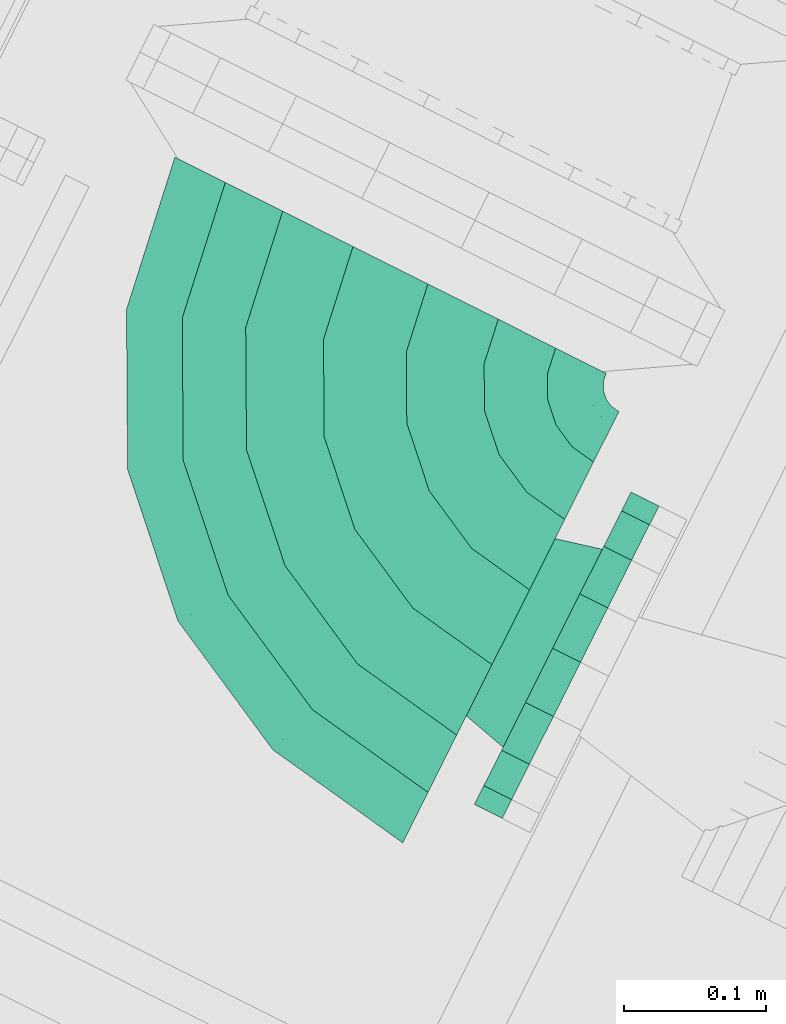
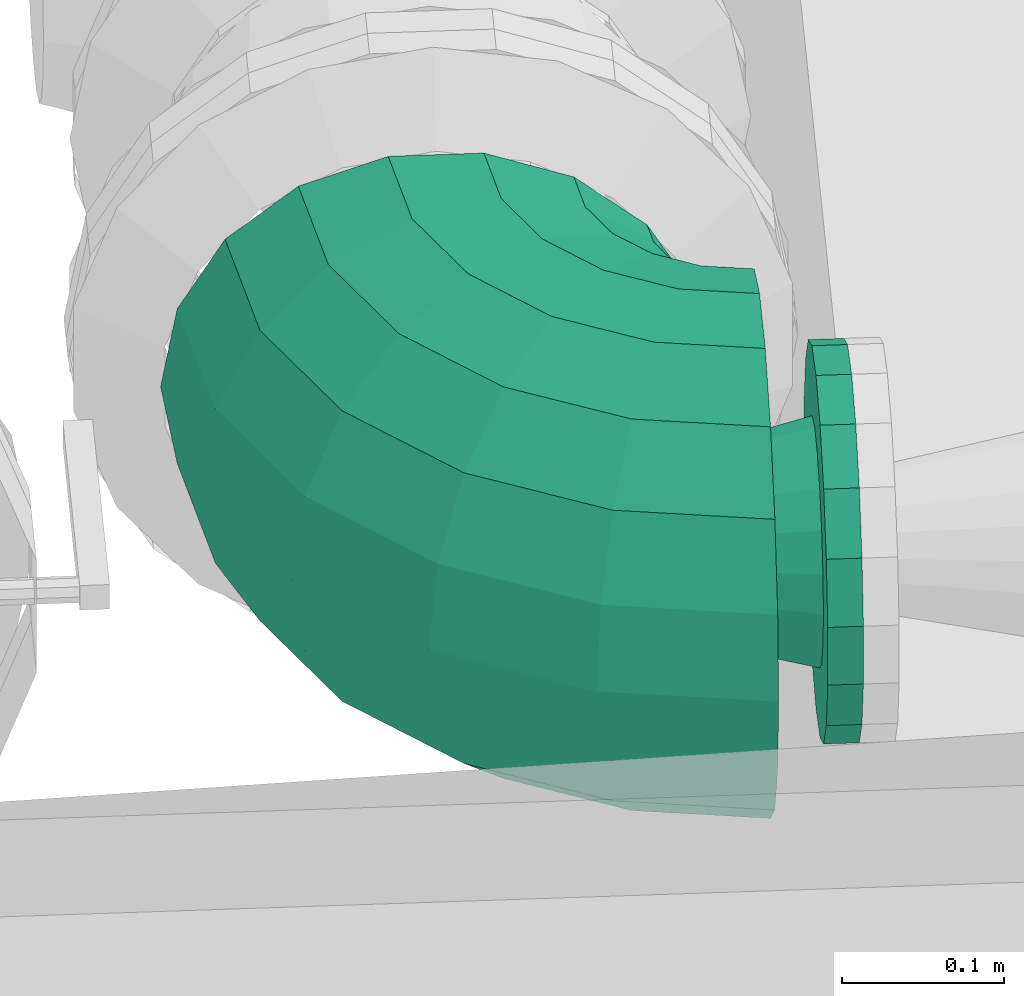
# One storey, part 65 of 206: 1 flow fitting, 1 flow segment.
"""IFC2X3 building model written with IfcOpenShell, lengths in metres."""

import ifcopenshell
import ifcopenshell.guid

model = None  # the IFC model being written
_history = None  # IfcOwnerHistory: only IFC2X3 demands one
_inside = {}  # id of a spatial element -> (the spatial element, [elements in it])
_under = {}  # id of a project, library or spatial element -> (it, [spatial elements below it])
_declared = {}  # id of a project -> (the project, [libraries it declares])
_typed = {}  # id of a type object -> (the type object, [elements of that type])
_made_of = {}  # id of a material, layer set ... -> (it, [elements and type objects made of it])


def new_model(schema):
    """Start an empty IFC model of exactly this schema.

    Asked for "IFC4X3", IfcOpenShell would pick the latest addendum, in which some entities
    have other attributes; the version numbers below select the first issue.
    IFC2X3 requires an IfcOwnerHistory on every rooted entity: one is made here for all.
    """
    global model, _history
    if schema == "IFC4X3":
        model = ifcopenshell.file(schema_version=(4, 3, 0, 0))
    else:
        model = ifcopenshell.file(schema=schema)
    _inside.clear()
    _under.clear()
    _declared.clear()
    _typed.clear()
    _made_of.clear()
    _history = None
    if model.schema == "IFC2X3":
        org = make("IfcOrganization", Name="unknown")
        user = make(
            "IfcPersonAndOrganization",
            ThePerson=make("IfcPerson", FamilyName="unknown"),
            TheOrganization=org,
        )
        app = make(
            "IfcApplication",
            ApplicationDeveloper=org,
            Version="unknown",
            ApplicationFullName="unknown",
            ApplicationIdentifier="unknown",
        )
        _history = make(
            "IfcOwnerHistory",
            OwningUser=user,
            OwningApplication=app,
            ChangeAction="ADDED",
            CreationDate=0,
        )
    return model


def make(cls, **values):
    """One entity of the class cls with the attributes given. An attribute that is None is left unset."""
    return model.create_entity(
        cls, **{name: value for name, value in values.items() if value is not None}
    )


def rooted(cls, **values):
    """An entity with a GlobalId (a new one), such as an element, a storey or a relation."""
    return make(cls, GlobalId=ifcopenshell.guid.new(), OwnerHistory=_history, **values)


def si_unit(unit_type, name, prefix=None):
    """IfcSIUnit, for example si_unit("LENGTHUNIT", "METRE", prefix="MILLI")."""
    return make("IfcSIUnit", UnitType=unit_type, Prefix=prefix, Name=name)


def derived_unit(unit_type, elements):
    """IfcDerivedUnit: a product of units, each with its exponent."""
    return make(
        "IfcDerivedUnit",
        Elements=[
            make("IfcDerivedUnitElement", Unit=unit, Exponent=power)
            for unit, power in elements
        ],
        UnitType=unit_type,
    )


def assignment(units):
    """IfcUnitAssignment: the units of a project."""
    return None if units is None else make("IfcUnitAssignment", Units=units)


def point(xyz):
    """IfcCartesianPoint."""
    return None if xyz is None else make("IfcCartesianPoint", Coordinates=xyz)


def direction(xyz):
    """IfcDirection."""
    return None if xyz is None else make("IfcDirection", DirectionRatios=xyz)


def frame(location, z_axis=None, x_axis=None):
    """IfcAxis2Placement3D, a coordinate frame: its origin and axes. An axis left out is left unset."""
    return make(
        "IfcAxis2Placement3D",
        Location=point(location),
        Axis=direction(z_axis),
        RefDirection=direction(x_axis),
    )


def origin():
    """The frame at (0, 0, 0) with its axes left unset."""
    return frame((0.0, 0.0, 0.0))


def place(relative_to, where):
    """IfcLocalPlacement: puts the frame where relative to a parent placement (None: the world)."""
    return make(
        "IfcLocalPlacement", PlacementRelTo=relative_to, RelativePlacement=where
    )


def context(
    kind, dimensions, precision=None, world=None, true_north=None, identifier=None
):
    """IfcGeometricRepresentationContext, for example the 3D "Model" context."""
    return make(
        "IfcGeometricRepresentationContext",
        ContextIdentifier=identifier,
        ContextType=kind,
        CoordinateSpaceDimension=dimensions,
        Precision=precision,
        WorldCoordinateSystem=world,
        TrueNorth=true_north,
    )


def subcontext(parent, identifier, kind, view, scale=None):
    """IfcGeometricRepresentationSubContext, for example "Body" below "Model"."""
    return make(
        "IfcGeometricRepresentationSubContext",
        ContextIdentifier=identifier,
        ContextType=kind,
        ParentContext=parent,
        TargetScale=scale,
        TargetView=view,
    )


def project(units=None, contexts=None):
    """IfcProject with its units and contexts."""
    return rooted(
        "IfcProject",
        Name="project",
        RepresentationContexts=contexts,
        UnitsInContext=assignment(units),
    )


def spatial(cls, under=None, at=None, **own):
    """A site, building, storey or space (cls), placed at a placement, below another one or the project."""
    s = rooted(cls, ObjectPlacement=at, **own)
    if under is not None:
        _under.setdefault(under.id(), (under, []))[1].append(s)
    return s


def faces_of(points, faces, orient=None, outer=None):
    """IfcFace entities. A face is a list of loops; a loop is a list of indices into points, from 0.

    orient and outer hold one flag for each loop. By default every Orientation is true, the
    first loop of a face is its IfcFaceOuterBound and the others are IfcFaceBound.
    """
    made = []
    for i, loops in enumerate(faces):
        bounds = []
        for j, loop in enumerate(loops):
            is_outer = j == 0 if outer is None else outer[i][j]
            bounds.append(
                make(
                    "IfcFaceOuterBound" if is_outer else "IfcFaceBound",
                    Bound=make("IfcPolyLoop", Polygon=[points[k] for k in loop]),
                    Orientation=True if orient is None else orient[i][j],
                )
            )
        made.append(make("IfcFace", Bounds=bounds))
    return made


def face_set(faces, orient=None, outer=None):
    """The faces of one IfcConnectedFaceSet. surface_model builds it on its shared points."""
    return ("IfcConnectedFaceSet", faces, orient, outer)


def surface_model(cls, points, shells):
    """IfcFaceBasedSurfaceModel or IfcShellBasedSurfaceModel (cls): surfaces that need not close."""
    shared = [point(p) for p in points]
    made = [make(c, CfsFaces=faces_of(shared, fs, o, b)) for c, fs, o, b in shells]
    if cls == "IfcFaceBasedSurfaceModel":
        return make(cls, FbsmFaces=made)
    return make(cls, SbsmBoundary=made)


def shape(context_of_items, identifier, shape_type, items):
    """IfcShapeRepresentation: the items that make up one representation, for example the "Body"."""
    return make(
        "IfcShapeRepresentation",
        ContextOfItems=context_of_items,
        RepresentationIdentifier=identifier,
        RepresentationType=shape_type,
        Items=items,
    )


def source(mapping_origin, context_of_items, identifier, shape_type, items):
    """IfcRepresentationMap: a shape defined once, which mapped items show again and again."""
    return make(
        "IfcRepresentationMap",
        MappingOrigin=mapping_origin,
        MappedRepresentation=shape(context_of_items, identifier, shape_type, items),
    )


def transform(
    local_origin,
    x_axis=None,
    y_axis=None,
    z_axis=None,
    scale=None,
    scale2=None,
    scale3=None,
    uniform=True,
):
    """IfcCartesianTransformationOperator3D, or its non-uniform kind. x_axis, y_axis, z_axis: its Axis1, 2, 3."""
    if uniform:
        return make(
            "IfcCartesianTransformationOperator3D",
            Axis1=direction(x_axis),
            Axis2=direction(y_axis),
            LocalOrigin=point(local_origin),
            Scale=scale,
            Axis3=direction(z_axis),
        )
    return make(
        "IfcCartesianTransformationOperator3DnonUniform",
        Axis1=direction(x_axis),
        Axis2=direction(y_axis),
        LocalOrigin=point(local_origin),
        Scale=scale,
        Axis3=direction(z_axis),
        Scale2=scale2,
        Scale3=scale3,
    )


def mapped(mapping_source, mapping_target):
    """IfcMappedItem: shows the shape of a source again, moved by a transform."""
    return make(
        "IfcMappedItem", MappingSource=mapping_source, MappingTarget=mapping_target
    )


def material(Name=None, Category=None):
    """IfcMaterial."""
    return make("IfcMaterial", Name=Name, Category=Category)


def made_of(thing, what):
    """Note that an element or type object is made of a material, layer set ...; save() writes the relation."""
    if what is not None:
        _made_of.setdefault(what.id(), (what, []))[1].append(thing)
    return thing


def type_object(cls, material=None, **own):
    """A type object (cls), such as IfcWallType, which elements share."""
    return made_of(rooted(cls, **own), material)


def type_shapes(of_type, sources):
    """Give a type object the sources (RepresentationMaps) that its elements show as mapped items."""
    of_type.RepresentationMaps = sources


def element(
    cls,
    number,
    at=None,
    inside=None,
    cuts=None,
    type_object=None,
    material=None,
    context=None,
    identifier="Body",
    shape_type=None,
    held_by="IfcProductDefinitionShape",
    body=None,
    shapes=None,
    **own,
):
    """One element of the class cls, such as IfcWall. Its Tag is "e" and its number.

    at: its placement. inside: the storey or other place that contains it. cuts: it is an
    opening in that element (IfcRelVoidsElement). A single representation is given by context,
    identifier, shape_type and body (its items); several are given by shapes. held_by: the class
    of the entity that holds the representations. save() writes the other relations.
    """
    e = rooted(cls, Tag="e%d" % number, ObjectPlacement=at, **own)
    if body is not None:
        shapes = [shape(context, identifier, shape_type, body)]
    if shapes is not None:
        e.Representation = make(held_by, Representations=shapes)
    if inside is not None:
        _inside.setdefault(inside.id(), (inside, []))[1].append(e)
    if cuts is not None:
        rooted(
            "IfcRelVoidsElement", RelatingBuildingElement=cuts, RelatedOpeningElement=e
        )
    if type_object is not None:
        _typed.setdefault(type_object.id(), (type_object, []))[1].append(e)
    return made_of(e, material)


def aggregate(whole, parts):
    """IfcRelAggregates: a whole, such as a stair, and the parts it consists of."""
    return rooted("IfcRelAggregates", RelatingObject=whole, RelatedObjects=parts)


def save(model, path):
    """Write the relations noted so far, then the file.

    IfcRelAggregates (storeys below a building ...), IfcRelContainedInSpatialStructure (elements
    in a storey), IfcRelDefinesByType, IfcRelAssociatesMaterial and IfcRelDeclares: one each for
    every whole, place, type object, material and project.
    """
    for whole, parts in _under.values():
        aggregate(whole, parts)
    for where, things in _inside.values():
        rooted(
            "IfcRelContainedInSpatialStructure",
            RelatedElements=things,
            RelatingStructure=where,
        )
    for kind, things in _typed.values():
        rooted("IfcRelDefinesByType", RelatedObjects=things, RelatingType=kind)
    for what, things in _made_of.values():
        rooted("IfcRelAssociatesMaterial", RelatedObjects=things, RelatingMaterial=what)
    for by, libraries in _declared.values():
        rooted("IfcRelDeclares", RelatingContext=by, RelatedDefinitions=libraries)
    model.write(path)


model = new_model("IFC2X3")

# Units and contexts
model_context = context("Model", 3, precision=5.2338327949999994e-05, world=origin(), true_north=direction((0.0, 1.0)))
body_context = subcontext(model_context, "Body", "Model", "MODEL_VIEW")
ifc_project = project(units=[si_unit("LENGTHUNIT", "METRE"), si_unit("AREAUNIT", "SQUARE_METRE"), si_unit("VOLUMEUNIT", "CUBIC_METRE"), si_unit("MASSUNIT", "GRAM", prefix="KILO"), si_unit("PLANEANGLEUNIT", "RADIAN"), derived_unit("THERMALTRANSMITTANCEUNIT", [(si_unit("MASSUNIT", "GRAM", prefix="KILO"), 1), (si_unit("THERMODYNAMICTEMPERATUREUNIT", "KELVIN"), -1), (si_unit("TIMEUNIT", "SECOND"), -3)])], contexts=[model_context])

# Site, building, storey
site_placement = place(None, frame((0.0, 0.0, 0.0), z_axis=(0.0, 0.0, 1.0), x_axis=(0.8939966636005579, -0.4480736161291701, 0.0)))
site = spatial("IfcSite", under=ifc_project, at=site_placement, Name="Default", CompositionType="ELEMENT")
building_placement = place(site_placement, origin())
building = spatial("IfcBuilding", under=site, at=building_placement, CompositionType="ELEMENT")
storey_placement = place(building_placement, origin())
storey = spatial("IfcBuildingStorey", under=building, at=storey_placement, Name="Erdgeschoss", CompositionType="ELEMENT", Elevation=0.0)

# Flow segment
ifc_material = material(Name="IfcSurfaceStyle #1741")
distribution_element_type_1 = type_object("IfcDistributionElementType", Name="Rohrbogen 340972:Rohrbogen 340972", material=ifc_material)
shared_shape_1 = source(origin(), body_context, "Body", "SurfaceModel", [
    surface_model("IfcFaceBasedSurfaceModel", [(25.370005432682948, 5.585961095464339, 2.3539999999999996), (25.374217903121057, 5.585961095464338, 2.3301098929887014), (25.38672969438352, 5.506964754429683, 2.3301098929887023), (25.38272339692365, 5.50566302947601, 2.354), (25.42304032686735, 5.435701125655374, 2.330109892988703), (25.419632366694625, 5.433225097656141, 2.354), (25.479595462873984, 5.379145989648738, 2.330109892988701), (25.47711943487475, 5.375738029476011, 2.3539999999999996), (25.550859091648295, 5.3428353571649, 2.330109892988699), (25.549557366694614, 5.3388290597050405, 2.3539999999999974), (25.62985543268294, 5.3303235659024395, 2.3301098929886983), (25.629855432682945, 5.326111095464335, 2.353999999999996), (25.38634722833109, 5.585961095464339, 2.3091012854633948), (25.39826536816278, 5.510712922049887, 2.3091012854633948), (25.432853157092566, 5.442830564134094, 2.309101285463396), (25.4867249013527, 5.388958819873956, 2.3091012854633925), (25.55460725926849, 5.354371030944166, 2.3091012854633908), (25.629855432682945, 5.342452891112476, 2.3091012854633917), (25.40493043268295, 5.585961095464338, 2.2935081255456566), (25.41593904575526, 5.516455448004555, 2.293508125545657), (25.447887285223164, 5.453753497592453, 2.2935081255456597), (25.497647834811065, 5.403992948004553, 2.2935081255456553), (25.560349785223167, 5.372044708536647, 2.2935081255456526), (25.629855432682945, 5.361036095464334, 2.293508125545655), (25.42772610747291, 5.585961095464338, 2.2852111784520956), (25.4376190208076, 5.5234996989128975, 2.2852111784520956), (25.46632937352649, 5.467152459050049, 2.285211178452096), (25.51104679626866, 5.422435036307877, 2.285211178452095), (25.567394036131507, 5.393724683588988, 2.285211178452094), (25.629855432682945, 5.383831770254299, 2.285211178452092), (25.451984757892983, 5.585961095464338, 2.285211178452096), (25.460690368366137, 5.5309960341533, 2.285211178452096), (25.48595503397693, 5.481411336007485, 2.2852111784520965), (25.5253056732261, 5.442060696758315, 2.285211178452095), (25.574890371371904, 5.416796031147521, 2.285211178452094), (25.629855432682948, 5.408090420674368, 2.285211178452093), (25.474780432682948, 5.585961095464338, 2.2935081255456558), (25.482370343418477, 5.538040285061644, 2.2935081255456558), (25.504397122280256, 5.494810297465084, 2.293508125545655), (25.53870463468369, 5.460502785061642, 2.2935081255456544), (25.58193462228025, 5.438476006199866, 2.293508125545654), (25.629855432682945, 5.430886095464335, 2.2935081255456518), (25.493363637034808, 5.585961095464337, 2.309101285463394), (25.500044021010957, 5.543782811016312, 2.309101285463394), (25.519431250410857, 5.505733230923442, 2.309101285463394), (25.549627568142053, 5.475536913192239, 2.3091012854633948), (25.58767714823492, 5.4561496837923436, 2.309101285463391), (25.629855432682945, 5.449469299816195, 2.3091012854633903), (25.505492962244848, 5.585961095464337, 2.330109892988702), (25.511579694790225, 5.54753097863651, 2.330109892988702), (25.529244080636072, 5.512862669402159, 2.3301098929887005), (25.556757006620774, 5.485349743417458, 2.330109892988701), (25.591425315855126, 5.467685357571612, 2.3301098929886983), (25.629855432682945, 5.461598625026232, 2.3301098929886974), (25.509705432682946, 5.585961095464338, 2.353999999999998), (25.515585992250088, 5.548832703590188, 2.3539999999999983), (25.532652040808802, 5.515338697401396, 2.3539999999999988), (25.559233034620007, 5.48875770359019, 2.353999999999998), (25.5927270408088, 5.471691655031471, 2.353999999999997), (25.629855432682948, 5.465811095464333, 2.3539999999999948), (25.505492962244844, 5.585961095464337, 2.377890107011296), (25.511579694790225, 5.54753097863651, 2.377890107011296), (25.529244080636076, 5.512862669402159, 2.377890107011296), (25.556757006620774, 5.4853497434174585, 2.377890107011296), (25.591425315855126, 5.467685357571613, 2.3778901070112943), (25.629855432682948, 5.461598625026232, 2.3778901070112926), (25.49336363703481, 5.585961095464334, 2.3988987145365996), (25.500044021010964, 5.543782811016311, 2.3988987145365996), (25.51943125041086, 5.505733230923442, 2.398898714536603), (25.549627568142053, 5.475536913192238, 2.398898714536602), (25.58767714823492, 5.456149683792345, 2.3988987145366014), (25.629855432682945, 5.449469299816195, 2.3988987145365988), (25.474780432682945, 5.585961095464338, 2.414491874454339), (25.482370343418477, 5.538040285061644, 2.414491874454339), (25.504397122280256, 5.494810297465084, 2.4144918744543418), (25.538704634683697, 5.460502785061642, 2.414491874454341), (25.581934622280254, 5.438476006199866, 2.4144918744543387), (25.629855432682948, 5.430886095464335, 2.414491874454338), (25.451984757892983, 5.585961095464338, 2.422788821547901), (25.460690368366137, 5.5309960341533, 2.4227888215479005), (25.48595503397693, 5.481411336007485, 2.422788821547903), (25.5253056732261, 5.442060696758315, 2.4227888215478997), (25.574890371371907, 5.416796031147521, 2.422788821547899), (25.629855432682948, 5.408090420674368, 2.4227888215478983), (25.427726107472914, 5.585961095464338, 2.422788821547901), (25.437619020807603, 5.5234996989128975, 2.422788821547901), (25.46632937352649, 5.467152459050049, 2.422788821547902), (25.51104679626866, 5.422435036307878, 2.422788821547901), (25.56739403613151, 5.393724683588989, 2.4227888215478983), (25.629855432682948, 5.383831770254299, 2.4227888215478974), (25.40493043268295, 5.585961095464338, 2.4144918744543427), (25.415939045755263, 5.516455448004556, 2.414491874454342), (25.447887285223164, 5.4537534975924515, 2.414491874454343), (25.497647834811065, 5.403992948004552, 2.4144918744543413), (25.56034978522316, 5.372044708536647, 2.4144918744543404), (25.629855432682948, 5.361036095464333, 2.414491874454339), (25.38634722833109, 5.585961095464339, 2.398898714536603), (25.39826536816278, 5.510712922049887, 2.398898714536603), (25.432853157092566, 5.442830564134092, 2.3988987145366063), (25.486724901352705, 5.388958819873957, 2.3988987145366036), (25.554607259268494, 5.354371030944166, 2.398898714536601), (25.629855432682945, 5.342452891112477, 2.3988987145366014), (25.374217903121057, 5.585961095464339, 2.3778901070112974), (25.386729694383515, 5.506964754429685, 2.3778901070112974), (25.42304032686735, 5.435701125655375, 2.377890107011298), (25.479595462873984, 5.379145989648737, 2.3778901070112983), (25.550859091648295, 5.3428353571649, 2.3778901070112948), (25.629855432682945, 5.33032356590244, 2.3778901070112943), (25.270005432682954, 5.585961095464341, 2.354), (25.280248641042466, 5.585961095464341, 2.2959078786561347), (25.297359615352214, 5.47792665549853, 2.2959078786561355), (25.28761774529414, 5.474761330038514, 2.353999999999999), (25.34701759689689, 5.380467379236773, 2.295907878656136), (25.338730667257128, 5.374446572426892, 2.3540000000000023), (25.42436171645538, 5.303123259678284, 2.2959078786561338), (25.418340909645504, 5.294836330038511, 2.353999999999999), (25.52182099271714, 5.253465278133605, 2.295907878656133), (25.51865566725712, 5.243723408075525, 2.3539999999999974), (25.629855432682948, 5.236354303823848, 2.295907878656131), (25.629855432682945, 5.22611109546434, 2.353999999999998), (25.30974278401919, 5.585961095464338, 2.244822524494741), (25.325410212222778, 5.487040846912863, 2.244822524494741), (25.370878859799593, 5.397803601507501, 2.2448225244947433), (25.44169793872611, 5.326984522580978, 2.2448225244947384), (25.53093518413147, 5.281515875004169, 2.2448225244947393), (25.629855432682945, 5.265848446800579, 2.2448225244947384), (25.35493043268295, 5.585961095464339, 2.206905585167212), (25.368386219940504, 5.501004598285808, 2.206905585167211), (25.40743643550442, 5.424364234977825, 2.2069055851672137), (25.46825857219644, 5.363542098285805, 2.2069055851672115), (25.544898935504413, 5.324491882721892, 2.206905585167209), (25.62985543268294, 5.3110360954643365, 2.2069055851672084), (25.41036128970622, 5.585961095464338, 2.1867304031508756), (25.421104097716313, 5.518133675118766, 2.186730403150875), (25.45228094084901, 5.456945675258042, 2.186730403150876), (25.500840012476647, 5.408386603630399, 2.1867304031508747), (25.562028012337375, 5.377209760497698, 2.1867304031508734), (25.629855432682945, 5.366466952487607, 2.1867304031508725), (25.469349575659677, 5.585961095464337, 2.1867304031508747), (25.47720529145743, 5.536362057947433, 2.186730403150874), (25.50000346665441, 5.491618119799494, 2.1867304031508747), (25.5355124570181, 5.456109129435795, 2.1867304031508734), (25.58025639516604, 5.433310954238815, 2.186730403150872), (25.629855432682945, 5.425455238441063, 2.1867304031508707), (25.524780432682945, 5.585961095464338, 2.20690558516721), (25.529923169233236, 5.553491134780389, 2.2069055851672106), (25.544847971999, 5.5241995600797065, 2.206905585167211), (25.56809389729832, 5.500953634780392, 2.206905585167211), (25.597385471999, 5.486028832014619, 2.2069055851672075), (25.629855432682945, 5.480886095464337, 2.2069055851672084), (25.56996808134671, 5.585961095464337, 2.2448225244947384), (25.57289917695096, 5.567454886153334, 2.2448225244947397), (25.581405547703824, 5.550760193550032, 2.244822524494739), (25.594654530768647, 5.5375112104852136, 2.2448225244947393), (25.61134922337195, 5.529004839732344, 2.2448225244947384), (25.629855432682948, 5.526073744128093, 2.2448225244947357), (25.599462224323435, 5.585961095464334, 2.2959078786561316), (25.600949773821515, 5.576569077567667, 2.2959078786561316), (25.605266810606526, 5.568096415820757, 2.295907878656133), (25.61199075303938, 5.561372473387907, 2.29590787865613), (25.62046341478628, 5.5570554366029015, 2.2959078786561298), (25.629855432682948, 5.5555678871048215, 2.29590787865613), (25.609705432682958, 5.585961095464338, 2.3539999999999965), (25.61069164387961, 5.579734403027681, 2.353999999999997), (25.613553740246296, 5.574117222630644, 2.353999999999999), (25.61801155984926, 5.569659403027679, 2.3539999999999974), (25.623628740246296, 5.566797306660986, 2.3539999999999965), (25.629855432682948, 5.565811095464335, 2.3539999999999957), (25.599462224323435, 5.585961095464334, 2.4120921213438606), (25.600949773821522, 5.576569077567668, 2.4120921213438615), (25.60526681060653, 5.568096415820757, 2.412092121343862), (25.61199075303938, 5.561372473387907, 2.412092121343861), (25.62046341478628, 5.5570554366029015, 2.4120921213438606), (25.629855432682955, 5.5555678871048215, 2.4120921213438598), (25.56996808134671, 5.585961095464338, 2.4631774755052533), (25.57289917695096, 5.567454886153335, 2.4631774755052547), (25.58140554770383, 5.550760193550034, 2.463177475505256), (25.59465453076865, 5.537511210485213, 2.4631774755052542), (25.61134922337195, 5.529004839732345, 2.4631774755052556), (25.629855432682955, 5.526073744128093, 2.463177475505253), (25.52478043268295, 5.585961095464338, 2.5010944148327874), (25.52992316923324, 5.553491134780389, 2.5010944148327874), (25.544847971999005, 5.5241995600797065, 2.5010944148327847), (25.56809389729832, 5.500953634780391, 2.501094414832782), (25.597385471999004, 5.486028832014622, 2.501094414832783), (25.629855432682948, 5.480886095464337, 2.5010944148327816), (25.469349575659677, 5.585961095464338, 2.521269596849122), (25.47720529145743, 5.536362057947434, 2.5212695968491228), (25.500003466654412, 5.491618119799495, 2.5212695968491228), (25.53551245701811, 5.456109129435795, 2.52126959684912), (25.580256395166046, 5.433310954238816, 2.521269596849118), (25.629855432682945, 5.425455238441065, 2.5212695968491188), (25.410361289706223, 5.585961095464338, 2.5212695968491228), (25.421104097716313, 5.518133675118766, 2.5212695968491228), (25.45228094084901, 5.456945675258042, 2.5212695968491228), (25.500840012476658, 5.4083866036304, 2.521269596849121), (25.56202801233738, 5.377209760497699, 2.52126959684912), (25.629855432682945, 5.366466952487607, 2.521269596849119), (25.354930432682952, 5.585961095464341, 2.5010944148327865), (25.368386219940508, 5.5010045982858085, 2.501094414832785), (25.40743643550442, 5.424364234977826, 2.5010944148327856), (25.468258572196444, 5.363542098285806, 2.501094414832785), (25.54489893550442, 5.324491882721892, 2.5010944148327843), (25.629855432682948, 5.311036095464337, 2.501094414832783), (25.309742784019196, 5.585961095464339, 2.4631774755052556), (25.325410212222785, 5.487040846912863, 2.4631774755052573), (25.37087885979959, 5.3978036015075, 2.4631774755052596), (25.44169793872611, 5.3269845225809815, 2.463177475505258), (25.530935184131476, 5.281515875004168, 2.4631774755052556), (25.629855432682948, 5.265848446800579, 2.4631774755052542), (25.280248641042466, 5.585961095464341, 2.412092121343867), (25.297359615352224, 5.477926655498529, 2.4120921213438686), (25.347017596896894, 5.380467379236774, 2.412092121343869), (25.42436171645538, 5.303123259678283, 2.4120921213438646), (25.52182099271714, 5.253465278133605, 2.412092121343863), (25.629855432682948, 5.236354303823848, 2.412092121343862)], [face_set([[[0, 1, 2, 3]], [[3, 2, 4, 5]], [[5, 4, 6, 7]], [[7, 6, 8, 9]], [[9, 8, 10, 11]], [[1, 12, 13, 2]], [[2, 13, 14, 4]], [[4, 14, 15, 6]], [[6, 15, 16, 8]], [[8, 16, 17, 10]], [[12, 18, 19, 13]], [[13, 19, 20, 14]], [[14, 20, 21, 15]], [[15, 21, 22, 16]], [[16, 22, 23, 17]], [[18, 24, 25, 19]], [[19, 25, 26, 20]], [[20, 26, 27, 21]], [[21, 27, 28, 22]], [[22, 28, 29, 23]], [[24, 30, 31, 25]], [[25, 31, 32, 26]], [[26, 32, 33, 27]], [[27, 33, 34, 28]], [[28, 34, 35, 29]], [[30, 36, 37, 31]], [[31, 37, 38, 32]], [[32, 38, 39, 33]], [[33, 39, 40, 34]], [[34, 40, 41, 35]], [[36, 42, 43, 37]], [[37, 43, 44, 38]], [[38, 44, 45, 39]], [[39, 45, 46, 40]], [[40, 46, 47, 41]], [[42, 48, 49, 43]], [[43, 49, 50, 44]], [[44, 50, 51, 45]], [[45, 51, 52, 46]], [[46, 52, 53, 47]], [[48, 54, 55, 49]], [[49, 55, 56, 50]], [[50, 56, 57, 51]], [[51, 57, 58, 52]], [[52, 58, 59, 53]], [[54, 60, 61, 55]], [[55, 61, 62, 56]], [[56, 62, 63, 57]], [[57, 63, 64, 58]], [[58, 64, 65, 59]], [[60, 66, 67, 61]], [[61, 67, 68, 62]], [[62, 68, 69, 63]], [[63, 69, 70, 64]], [[64, 70, 71, 65]], [[66, 72, 73, 67]], [[67, 73, 74, 68]], [[68, 74, 75, 69]], [[69, 75, 76, 70]], [[70, 76, 77, 71]], [[72, 78, 79, 73]], [[73, 79, 80, 74]], [[74, 80, 81, 75]], [[75, 81, 82, 76]], [[76, 82, 83, 77]], [[78, 84, 85, 79]], [[79, 85, 86, 80]], [[80, 86, 87, 81]], [[81, 87, 88, 82]], [[82, 88, 89, 83]], [[84, 90, 91, 85]], [[85, 91, 92, 86]], [[86, 92, 93, 87]], [[87, 93, 94, 88]], [[88, 94, 95, 89]], [[90, 96, 97, 91]], [[91, 97, 98, 92]], [[92, 98, 99, 93]], [[93, 99, 100, 94]], [[94, 100, 101, 95]], [[96, 102, 103, 97]], [[97, 103, 104, 98]], [[98, 104, 105, 99]], [[99, 105, 106, 100]], [[100, 106, 107, 101]], [[102, 0, 3, 103]], [[103, 3, 5, 104]], [[104, 5, 7, 105]], [[105, 7, 9, 106]], [[106, 9, 11, 107]], [[108, 109, 110, 111]], [[111, 110, 112, 113]], [[113, 112, 114, 115]], [[115, 114, 116, 117]], [[117, 116, 118, 119]], [[109, 120, 121, 110]], [[110, 121, 122, 112]], [[112, 122, 123, 114]], [[114, 123, 124, 116]], [[116, 124, 125, 118]], [[120, 126, 127, 121]], [[121, 127, 128, 122]], [[122, 128, 129, 123]], [[123, 129, 130, 124]], [[124, 130, 131, 125]], [[126, 132, 133, 127]], [[127, 133, 134, 128]], [[128, 134, 135, 129]], [[129, 135, 136, 130]], [[130, 136, 137, 131]], [[132, 138, 139, 133]], [[133, 139, 140, 134]], [[134, 140, 141, 135]], [[135, 141, 142, 136]], [[136, 142, 143, 137]], [[138, 144, 145, 139]], [[139, 145, 146, 140]], [[140, 146, 147, 141]], [[141, 147, 148, 142]], [[142, 148, 149, 143]], [[144, 150, 151, 145]], [[145, 151, 152, 146]], [[146, 152, 153, 147]], [[147, 153, 154, 148]], [[148, 154, 155, 149]], [[150, 156, 157, 151]], [[151, 157, 158, 152]], [[152, 158, 159, 153]], [[153, 159, 160, 154]], [[154, 160, 161, 155]], [[156, 162, 163, 157]], [[157, 163, 164, 158]], [[158, 164, 165, 159]], [[159, 165, 166, 160]], [[160, 166, 167, 161]], [[162, 168, 169, 163]], [[163, 169, 170, 164]], [[164, 170, 171, 165]], [[165, 171, 172, 166]], [[166, 172, 173, 167]], [[168, 174, 175, 169]], [[169, 175, 176, 170]], [[170, 176, 177, 171]], [[171, 177, 178, 172]], [[172, 178, 179, 173]], [[174, 180, 181, 175]], [[175, 181, 182, 176]], [[176, 182, 183, 177]], [[177, 183, 184, 178]], [[178, 184, 185, 179]], [[180, 186, 187, 181]], [[181, 187, 188, 182]], [[182, 188, 189, 183]], [[183, 189, 190, 184]], [[184, 190, 191, 185]], [[186, 192, 193, 187]], [[187, 193, 194, 188]], [[188, 194, 195, 189]], [[189, 195, 196, 190]], [[190, 196, 197, 191]], [[192, 198, 199, 193]], [[193, 199, 200, 194]], [[194, 200, 201, 195]], [[195, 201, 202, 196]], [[196, 202, 203, 197]], [[198, 204, 205, 199]], [[199, 205, 206, 200]], [[200, 206, 207, 201]], [[201, 207, 208, 202]], [[202, 208, 209, 203]], [[204, 210, 211, 205]], [[205, 211, 212, 206]], [[206, 212, 213, 207]], [[207, 213, 214, 208]], [[208, 214, 215, 209]], [[210, 108, 111, 211]], [[211, 111, 113, 212]], [[212, 113, 115, 213]], [[213, 115, 117, 214]], [[214, 117, 119, 215]]])]),
])
type_shapes(distribution_element_type_1, [shared_shape_1])
flow_segment_placement = place(storey_placement, origin())
element("IfcFlowSegment", 1, at=flow_segment_placement, inside=storey, type_object=distribution_element_type_1, material=ifc_material, Name="Rohrbogen", ObjectType="Rohrbogen", context=body_context, shape_type="MappedRepresentation", body=[
    mapped(shared_shape_1, transform((0.0, 0.0, 0.0), scale=1.0)),
])

# Flow fitting
distribution_element_type_2 = type_object("IfcDistributionElementType", Name="Flansch 340995:Flansch 340995", material=ifc_material)
shared_shape_2 = source(origin(), body_context, "Body", "SurfaceModel", [
    surface_model("IfcFaceBasedSurfaceModel", [(25.684855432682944, 5.395961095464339, 2.479), (25.684855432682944, 5.438713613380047, 2.471461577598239), (25.662855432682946, 5.438713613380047, 2.471461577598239), (25.662855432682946, 5.395961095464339, 2.479), (25.684855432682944, 5.476309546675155, 2.4497555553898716), (25.662855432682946, 5.476309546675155, 2.4497555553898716), (25.684855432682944, 5.504214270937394, 2.4165), (25.662855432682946, 5.504214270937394, 2.4165), (25.684855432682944, 5.519062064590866, 2.3757060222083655), (25.662855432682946, 5.519062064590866, 2.3757060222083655), (25.684855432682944, 5.519062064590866, 2.332293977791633), (25.662855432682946, 5.519062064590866, 2.332293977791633), (25.684855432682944, 5.5042142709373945, 2.291499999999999), (25.662855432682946, 5.5042142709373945, 2.291499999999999), (25.684855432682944, 5.476309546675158, 2.2582444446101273), (25.662855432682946, 5.476309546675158, 2.2582444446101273), (25.684855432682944, 5.43871361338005, 2.23653842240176), (25.662855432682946, 5.43871361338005, 2.23653842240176), (25.684855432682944, 5.395961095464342, 2.229), (25.662855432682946, 5.395961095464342, 2.229), (25.684855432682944, 5.353208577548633, 2.236538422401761), (25.662855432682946, 5.353208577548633, 2.236538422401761), (25.684855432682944, 5.315612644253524, 2.258244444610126), (25.662855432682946, 5.315612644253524, 2.258244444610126), (25.684855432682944, 5.287707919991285, 2.2915), (25.662855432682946, 5.287707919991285, 2.2915), (25.684855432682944, 5.272860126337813, 2.332293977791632), (25.662855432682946, 5.272860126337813, 2.332293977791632), (25.684855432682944, 5.272860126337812, 2.3757060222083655), (25.662855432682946, 5.272860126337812, 2.3757060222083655), (25.684855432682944, 5.287707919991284, 2.4165), (25.662855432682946, 5.287707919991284, 2.4165), (25.684855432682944, 5.315612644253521, 2.4497555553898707), (25.662855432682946, 5.315612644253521, 2.4497555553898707), (25.684855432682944, 5.353208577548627, 2.4714615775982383), (25.662855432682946, 5.353208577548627, 2.4714615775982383), (25.662855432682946, 5.395961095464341, 2.354), (25.662855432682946, 5.473961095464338, 2.353999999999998), (25.662855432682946, 5.469257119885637, 2.327322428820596), (25.629855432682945, 5.461598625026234, 2.3301098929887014), (25.629855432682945, 5.465811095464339, 2.3539999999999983), (25.662855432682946, 5.4557125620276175, 2.303862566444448), (25.629855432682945, 5.4494692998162, 2.3091012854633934), (25.662855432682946, 5.434961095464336, 2.286450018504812), (25.629855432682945, 5.430886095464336, 2.293508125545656), (25.662855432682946, 5.4095056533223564, 2.277184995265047), (25.629855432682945, 5.40809042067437, 2.2852111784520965), (25.662855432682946, 5.382416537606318, 2.2771849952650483), (25.629855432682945, 5.383831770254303, 2.2852111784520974), (25.662855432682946, 5.356961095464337, 2.2864500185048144), (25.629855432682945, 5.361036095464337, 2.2935081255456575), (25.662855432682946, 5.336209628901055, 2.30386256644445), (25.629855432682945, 5.342452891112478, 2.3091012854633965), (25.662855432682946, 5.322665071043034, 2.3273224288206), (25.629855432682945, 5.330323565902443, 2.330109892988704), (25.662855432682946, 5.3179610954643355, 2.3540000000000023), (25.629855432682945, 5.326111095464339, 2.3540000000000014), (25.662855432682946, 5.322665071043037, 2.380677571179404), (25.629855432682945, 5.330323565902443, 2.3778901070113), (25.662855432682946, 5.336209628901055, 2.404137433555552), (25.629855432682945, 5.342452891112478, 2.398898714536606), (25.662855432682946, 5.356961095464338, 2.421549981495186), (25.629855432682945, 5.361036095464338, 2.4144918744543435), (25.662855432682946, 5.382416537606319, 2.4308150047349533), (25.629855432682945, 5.383831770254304, 2.422788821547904), (25.662855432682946, 5.4095056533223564, 2.4308150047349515), (25.629855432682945, 5.4080904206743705, 2.422788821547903), (25.662855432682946, 5.43496109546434, 2.4215499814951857), (25.629855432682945, 5.430886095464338, 2.4144918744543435), (25.662855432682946, 5.4557125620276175, 2.404137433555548), (25.629855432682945, 5.4494692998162, 2.398898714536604), (25.662855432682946, 5.46925711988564, 2.3806775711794), (25.629855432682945, 5.461598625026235, 2.377890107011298)], [face_set([[[0, 1, 2, 3]], [[1, 4, 5, 2]], [[4, 6, 7, 5]], [[6, 8, 9, 7]], [[8, 10, 11, 9]], [[10, 12, 13, 11]], [[12, 14, 15, 13]], [[14, 16, 17, 15]], [[16, 18, 19, 17]], [[18, 20, 21, 19]], [[20, 22, 23, 21]], [[22, 24, 25, 23]], [[24, 26, 27, 25]], [[26, 28, 29, 27]], [[28, 30, 31, 29]], [[30, 32, 33, 31]], [[32, 34, 35, 33]], [[34, 0, 3, 35]], [[36, 35, 3]], [[36, 33, 35]], [[36, 31, 33]], [[36, 29, 31]], [[36, 27, 29]], [[36, 25, 27]], [[36, 23, 25]], [[36, 21, 23]], [[36, 19, 21]], [[36, 17, 19]], [[36, 15, 17]], [[36, 13, 15]], [[36, 11, 13]], [[36, 9, 11]], [[36, 7, 9]], [[36, 5, 7]], [[36, 2, 5]], [[36, 3, 2]], [[37, 38, 39, 40]], [[38, 41, 42, 39]], [[41, 43, 44, 42]], [[43, 45, 46, 44]], [[45, 47, 48, 46]], [[47, 49, 50, 48]], [[49, 51, 52, 50]], [[51, 53, 54, 52]], [[53, 55, 56, 54]], [[55, 57, 58, 56]], [[57, 59, 60, 58]], [[59, 61, 62, 60]], [[61, 63, 64, 62]], [[63, 65, 66, 64]], [[65, 67, 68, 66]], [[67, 69, 70, 68]], [[69, 71, 72, 70]], [[71, 37, 40, 72]]])]),
])
type_shapes(distribution_element_type_2, [shared_shape_2])
flow_fitting_placement = place(storey_placement, origin())
element("IfcFlowFitting", 2, at=flow_fitting_placement, inside=storey, type_object=distribution_element_type_2, material=ifc_material, Name="Flansch", ObjectType="Flansch", context=body_context, shape_type="MappedRepresentation", body=[
    mapped(shared_shape_2, transform((0.0, 0.0, 0.0), scale=1.0)),
])

save(model, "model.ifc")
